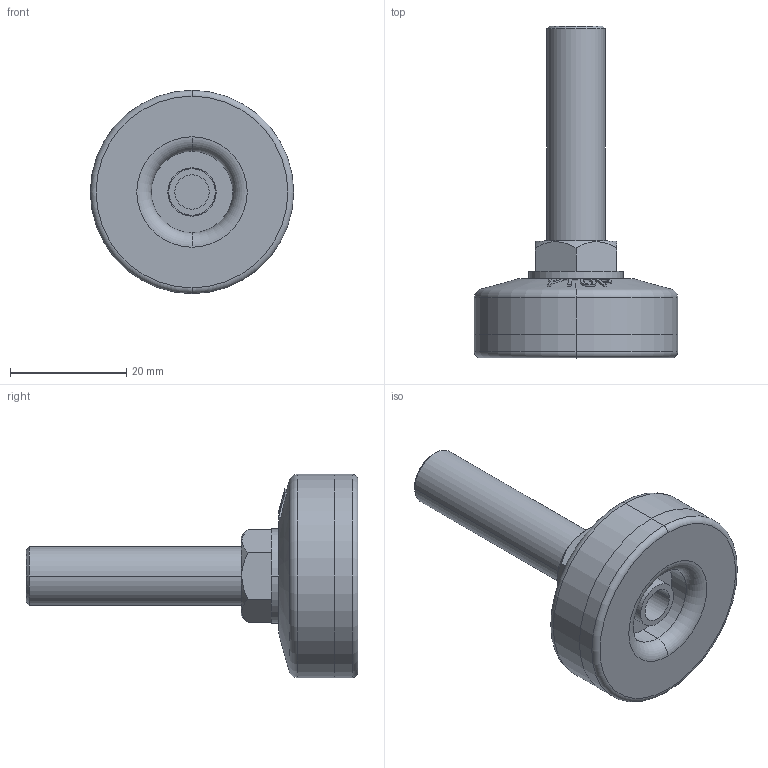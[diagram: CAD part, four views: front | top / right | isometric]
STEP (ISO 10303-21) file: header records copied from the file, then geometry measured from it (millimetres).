
FILE_DESCRIPTION (( 'STEP AP203' ), '1' );
FILE_NAME ('R-35-1037-TPU.STEP', '2020-09-11T02:21:38', ( '' ), ( '' ), 'SwSTEP 2.0', 'SolidWorks 2016', '' );
FILE_SCHEMA (( 'CONFIG_CONTROL_DESIGN' ));
Length unit declared in the file: millimetre
Products named in the file (4): S倰覃誹褐_35裔赽; S倰覃誹褐_35菁菜; R-35-1037-TPU; 穩諉蹟裝M10炵蹈_M10X37
Assembly tree (3 placements, depth 2):
  R-35-1037-TPU
    S倰覃誹褐_35菁菜
    S倰覃誹褐_35裔赽
    穩諉蹟裝M10炵蹈_M10X37
Bounding box: 35 x 57.1 x 35 mm (x, y, z)
Volume: 11393.4 mm3; surface area: 9805.8 mm2
Topology: 3 solids, 3 shells, 113 faces, 259 edges, 166 vertices
Faces by surface type: bspline 38, cylinder 26, plane 21, cone 16, torus 12
Entity records: 6649 total; most frequent: CARTESIAN_POINT 3954, ORIENTED_EDGE 518, DIRECTION 383, EDGE_CURVE 259, AXIS2_PLACEMENT_3D 167, VERTEX_POINT 166, EDGE_LOOP 131, B_SPLINE_CURVE_WITH_KNOTS 124
